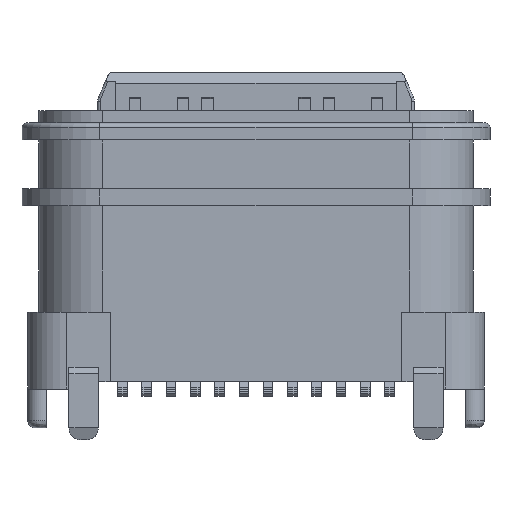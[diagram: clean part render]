
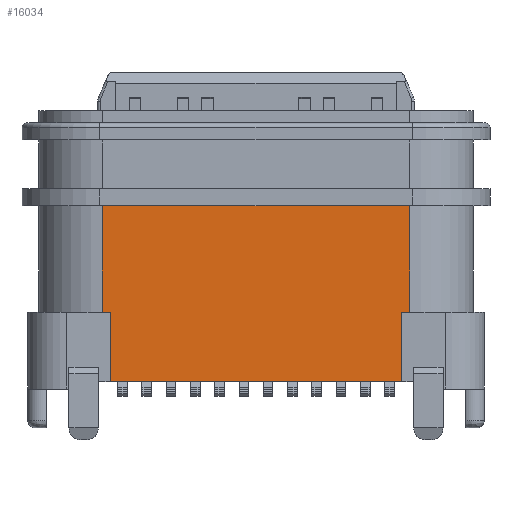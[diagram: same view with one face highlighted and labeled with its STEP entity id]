
A CAD part, front view. The second image highlights one B-rep face of the part: STEP entity #16034.
In plain terms, the highlighted planar face has unit normal (0, -1, 0).
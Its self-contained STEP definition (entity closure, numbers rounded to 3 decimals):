
#17=DIRECTION('',(0.,0.,-1.));
#18=VECTOR('',#17,1.43);
#19=CARTESIAN_POINT('',(3.,-1.58,-0.5));
#20=LINE('',#19,#18);
#21=DIRECTION('',(-1.,0.,0.));
#22=VECTOR('',#21,6.);
#23=CARTESIAN_POINT('',(3.,-1.58,-1.93));
#24=LINE('',#23,#22);
#25=DIRECTION('',(0.,0.,1.));
#26=VECTOR('',#25,1.43);
#27=CARTESIAN_POINT('',(-3.,-1.58,-1.93));
#28=LINE('',#27,#26);
#55=DIRECTION('',(1.,0.,0.));
#56=VECTOR('',#55,0.17);
#57=CARTESIAN_POINT('',(3.,-1.58,-0.5));
#58=LINE('',#57,#56);
#115=DIRECTION('',(1.,0.,0.));
#116=VECTOR('',#115,0.17);
#117=CARTESIAN_POINT('',(-3.17,-1.58,-0.5));
#118=LINE('',#117,#116);
#12054=DIRECTION('',(-1.,0.,0.));
#12055=VECTOR('',#12054,6.34);
#12056=CARTESIAN_POINT('',(3.17,-1.58,1.7));
#12057=LINE('',#12056,#12055);
#12121=DIRECTION('',(0.,0.,1.));
#12122=VECTOR('',#12121,2.2);
#12123=CARTESIAN_POINT('',(3.17,-1.58,-0.5));
#12124=LINE('',#12123,#12122);
#12141=DIRECTION('',(0.,0.,-1.));
#12142=VECTOR('',#12141,2.2);
#12143=CARTESIAN_POINT('',(-3.17,-1.58,1.7));
#12144=LINE('',#12143,#12142);
#12412=CARTESIAN_POINT('',(3.,-1.58,-0.5));
#12413=VERTEX_POINT('',#12412);
#12414=CARTESIAN_POINT('',(3.17,-1.58,-0.5));
#12415=VERTEX_POINT('',#12414);
#12432=CARTESIAN_POINT('',(-3.17,-1.58,-0.5));
#12433=VERTEX_POINT('',#12432);
#12434=CARTESIAN_POINT('',(-3.,-1.58,-0.5));
#12435=VERTEX_POINT('',#12434);
#15264=CARTESIAN_POINT('',(3.,-1.58,-1.93));
#15265=CARTESIAN_POINT('',(-3.,-1.58,-1.93));
#15266=VERTEX_POINT('',#15264);
#15267=VERTEX_POINT('',#15265);
#15808=CARTESIAN_POINT('',(3.17,-1.58,1.7));
#15809=CARTESIAN_POINT('',(-3.17,-1.58,1.7));
#15810=VERTEX_POINT('',#15808);
#15811=VERTEX_POINT('',#15809);
#16012=CARTESIAN_POINT('',(-3.17,-1.58,5.17));
#16013=DIRECTION('',(0.,-1.,0.));
#16014=DIRECTION('',(1.,0.,0.));
#16015=AXIS2_PLACEMENT_3D('',#16012,#16013,#16014);
#16016=PLANE('',#16015);
#16018=ORIENTED_EDGE('',*,*,#16017,.F.);
#16020=ORIENTED_EDGE('',*,*,#16019,.T.);
#16021=ORIENTED_EDGE('',*,*,#15985,.T.);
#16023=ORIENTED_EDGE('',*,*,#16022,.T.);
#16025=ORIENTED_EDGE('',*,*,#16024,.F.);
#16027=ORIENTED_EDGE('',*,*,#16026,.F.);
#16029=ORIENTED_EDGE('',*,*,#16028,.F.);
#16031=ORIENTED_EDGE('',*,*,#16030,.F.);
#16032=EDGE_LOOP('',(#16018,#16020,#16021,#16023,#16025,#16027,#16029,#16031));
#16033=FACE_OUTER_BOUND('',#16032,.F.);
#16034=ADVANCED_FACE('',(#16033),#16016,.T.);
#15985=EDGE_CURVE('',#15266,#15267,#24,.T.);
#16017=EDGE_CURVE('',#12413,#12415,#58,.T.);
#16019=EDGE_CURVE('',#12413,#15266,#20,.T.);
#16022=EDGE_CURVE('',#15267,#12435,#28,.T.);
#16024=EDGE_CURVE('',#12433,#12435,#118,.T.);
#16026=EDGE_CURVE('',#15811,#12433,#12144,.T.);
#16028=EDGE_CURVE('',#15810,#15811,#12057,.T.);
#16030=EDGE_CURVE('',#12415,#15810,#12124,.T.);
